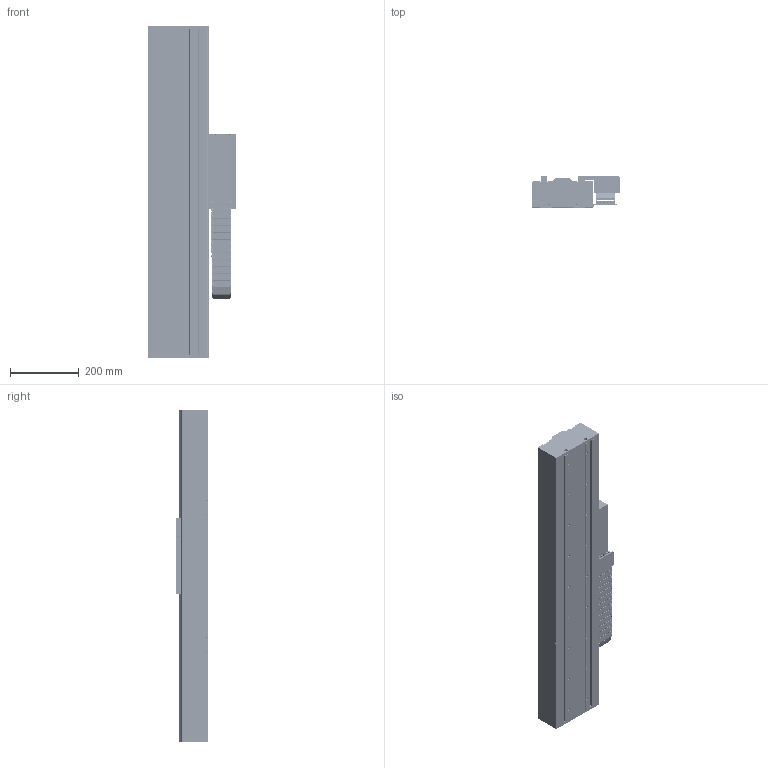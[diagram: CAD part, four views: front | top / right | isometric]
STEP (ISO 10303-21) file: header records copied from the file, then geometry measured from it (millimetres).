
FILE_DESCRIPTION (( 'STEP AP203' ), '1' );
FILE_NAME ('STF20120E-xC1B-Bxx Series.STEP', '2007-06-22T21:23:02', ( 'Yaskawa' ), ( 'Yaskawa' ), 'SwSTEP 2.0', 'SolidWorks 2007', '' );
FILE_SCHEMA (( 'CONFIG_CONTROL_DESIGN' ));
Length unit declared in the file: millimetre
Products named in the file (60): 07.50.028.0_100; SGLFM-20324AC; STF2035-001B F20-120 Carriage; Complete Carriage; SGLFM-20540AC; STF2035-002A-R2 F2035 Carriage Horn; STF2035-005-R2 Cable Router; STF2035-003 Renishaw Encoder Mount; RGH22B; STF2035-004 Flag; STCM-006-R1 Upper E-chain Bracket; SSR15W Block; SGLFW-20A120AP; STCM-R1; STCM-001-R2 Cable Bracket; STCM-007 Lower E-Chain Bracket; STCM-002-R2 Cable Assembly Front; STCM-003 Cable Assembly Bottom; STCM-004 Cable Assembly Side; STCM-005-R1 Cable Assembly Cover; Serial Converter; STF2035-006 Endplate; STF2035-009-02 Top Cover 2_E; STF20120E; STF2035-010-02 Side Cover 2_E; 07.50.028.0_96; 07.50.028.0_97; 07.50.028.0_98; 07.50.028.0_99; 07.50.028.0_101; 07.50.028.0_106; 07.50.028.0_102; 07.50.028.0_103; 07.50.028.0_104; 07.50.028.0_107; 07.50.028.0_108; 07.50.028.0_109; 07.50.028.0_110; 07.50.028.0_113; 07.50.028.0_114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
Assembly tree (71 placements, depth 4):
  STF20120E-xC1B-Bxx Series
    STCM-007 Lower E-Chain Bracket
    STF2035-010-02 Side Cover 2_E  x2
    STF2035-009-02 Top Cover 2_E
    STF2035-006 Endplate  x2
    Complete Carriage
      STCM-R1
        STCM-005-R1 Cable Assembly Cover
        STCM-003 Cable Assembly Bottom
        STCM-006-R1 Upper E-chain Bracket
        STCM-002-R2 Cable Assembly Front
        Serial Converter
        STCM-004 Cable Assembly Side
        STCM-001-R2 Cable Bracket
      STF20-120 SSR15W Carriage-R2
        STF2035-003 Renishaw Encoder Mount
        STF2035-002A-R2 F2035 Carriage Horn  x2
        STF2035-004 Flag
        SGLFW-20A120AP
        RGH22B
        SSR15W Block  x4
        STF2035-001B F20-120 Carriage
        STF2035-005-R2 Cable Router
    STF20120E
      07.50.028.0_118
      07.50.028.0_116
      07.50.028.0_111  x2
      07.50.028.0_100
      07.50.028.0_103
      07.50.028.0_101
      07.50.028.0_117
      07.50.028.0_123
      07.50.028.0_115
      07.50.028.0_110
      07.50.028.0_105  x2
      07.50.028.0_104
      07.50.028.0_114
      07.50.028.0_102
      07.50.028.0_98
      07.50.028.0_108
      07.50.028.0_96
      07.50.028.0_112
      07.50.028.0_113
      07.50.028.0_97
      07.50.028.0_99
      07.50.028.0_122
      07.50.028.0_107
      07.50.028.0_119
      07.50.028.0_109
      07.50.028.0_121
      07.50.028.0_120
      07.50.028.0_106
    STF20BM Base_STF20BM-005
      End Stop with Bumper  x4
        STF2035-007 End Stop
        Bumper-Medium
      SGLFM-20324AC
      SGLFM-20540AC
      STF20BM Base_STF20BM-005
      Mult-SR15+580LY_005  x2
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Bounding box: 254.2 x 94.7 x 969.05 mm (x, y, z)
Volume: 6013036.3 mm3; surface area: 2019825.6 mm2
Topology: 96 solids, 96 shells, 5169 faces, 13488 edges, 8633 vertices
Faces by surface type: plane 2612, cylinder 2139, cone 370, bspline 44, torus 4
Entity records: 130576 total; most frequent: DIRECTION 21928, CARTESIAN_POINT 21703, ORIENTED_EDGE 20564, EDGE_CURVE 10282, AXIS2_PLACEMENT_3D 7586, LINE 6756, VECTOR 6756, VERTEX_POINT 6748
